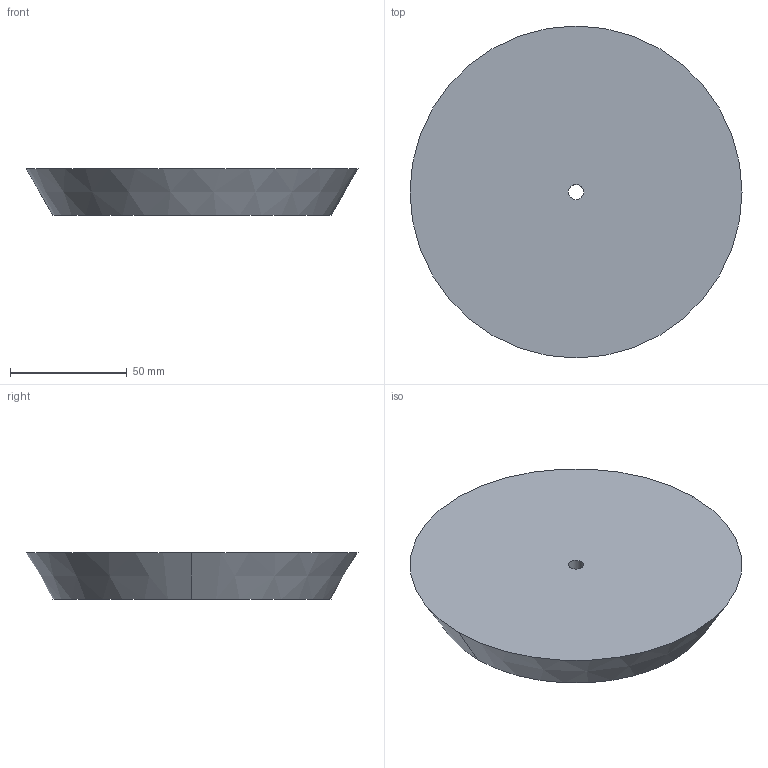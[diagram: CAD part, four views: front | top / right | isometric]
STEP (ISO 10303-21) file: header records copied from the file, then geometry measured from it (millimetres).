
FILE_DESCRIPTION(('CATIA V5 STEP Exchange'),'2;1');
FILE_NAME('C:\Users\andres.garcia\OneDrive - IQS\ASIGNATURAS\DAO\Controles\2223\c0\c1-HERRERO_Xavier-tapon.stp','2023-02-03T08:22:05+00:00',('none'),('none'),'CATIA Version 5-6 Release 2013 SP6','CATIA V5 STEP AP203','none');
FILE_SCHEMA(('CONFIG_CONTROL_DESIGN'));
Length unit declared in the file: millimetre
Products named in the file (1): c1-HERRERO_Xavier-tapon
Bounding box: 142 x 142 x 20 mm (x, y, z)
Volume: 267352.3 mm3; surface area: 36747.9 mm2
Topology: 1 solids, 1 shells, 6 faces, 12 edges, 8 vertices
Faces by surface type: cylinder 2, plane 2, cone 2
Entity records: 196 total; most frequent: CARTESIAN_POINT 26, ORIENTED_EDGE 24, DIRECTION 22, AXIS2_PLACEMENT_3D 14, EDGE_CURVE 12, CIRCLE 8, EDGE_LOOP 8, VERTEX_POINT 8
